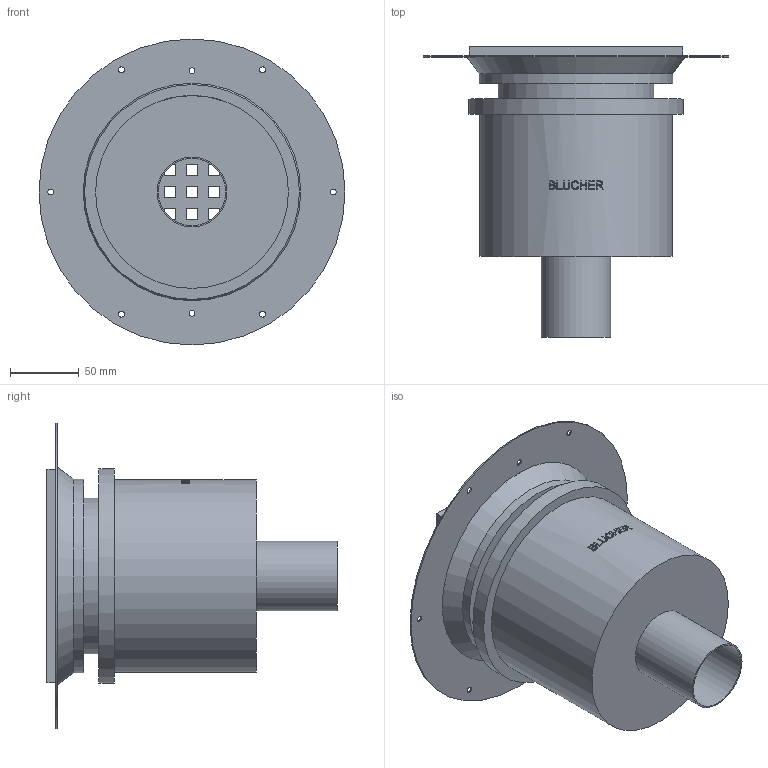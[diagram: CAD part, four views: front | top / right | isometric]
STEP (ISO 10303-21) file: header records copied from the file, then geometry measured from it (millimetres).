
FILE_DESCRIPTION((''),'2;1');
FILE_NAME('C:\Drawings\3D_CAD_Models\Blucher\Showers\BSS_Shower Drains with Square Top_Complete_091110\WebsiteFiles\3D\STEP\BSS-302.stp','2009-11-20T15:23:49',('hofmansp'),(''),'Autodesk Inventor 2010','Autodesk Inventor 2010','');
FILE_SCHEMA(('AUTOMOTIVE_DESIGN { 1 0 10303 214 1 1 1 1 }'));
Length unit declared in the file: inch
Products named in the file (1): BSS-302
Bounding box: 222.25 x 210.9 x 222.25 mm (x, y, z)
Volume: 330625.5 mm3; surface area: 325416.6 mm2
Topology: 1 solids, 1 shells, 353 faces, 1056 edges, 688 vertices
Faces by surface type: plane 285, bspline 42, cylinder 24, cone 2
Full cylindrical faces by diameter (mm): 48.8 x1, 50.8 x1, 109.5 x1, 111 x1, 111.5 x1, 113 x2, 138 x1, 138.6 x1, 140 x1, 140.6 x1, 155.575 x1, 156 x1, 222.25 x1
Entity records: 22804 total; most frequent: CARTESIAN_POINT 13093, ORIENTED_EDGE 2036, DIRECTION 1662, EDGE_CURVE 1018, VECTOR 772, LINE 772, VERTEX_POINT 674, EDGE_LOOP 498
